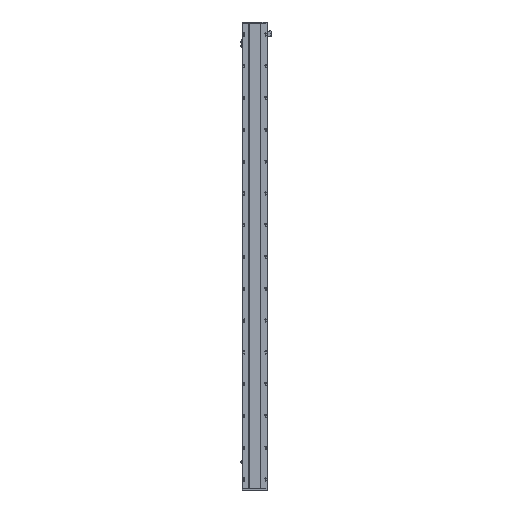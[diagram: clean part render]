
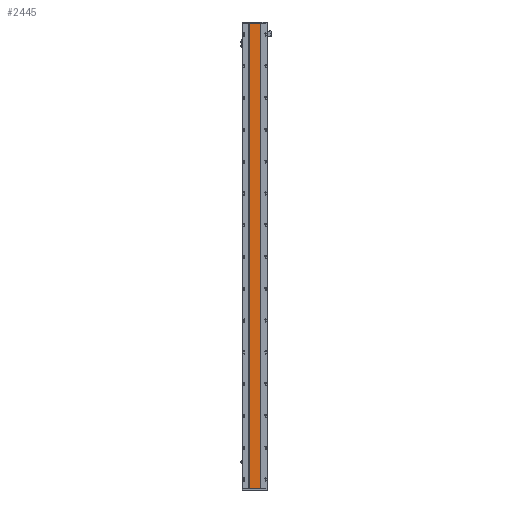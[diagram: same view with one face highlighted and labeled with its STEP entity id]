
A CAD part, front view. The second image highlights one B-rep face of the part: STEP entity #2445.
In plain terms, the highlighted planar face has unit normal (0, -1, 0).
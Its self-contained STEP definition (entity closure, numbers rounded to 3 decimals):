
#1170 = DIRECTION ( 'NONE',  ( 1., 0., 0. ) ) ;
#2145 = CARTESIAN_POINT ( 'NONE',  ( 205.288, 16.9, 3160. ) ) ;
#2445 = ADVANCED_FACE ( 'NONE', ( #19490 ), #22636, .F. ) ;
#5152 = ORIENTED_EDGE ( 'NONE', *, *, #48533, .T. ) ;
#7791 = DIRECTION ( 'NONE',  ( -1., 0., 0. ) ) ;
#9166 = EDGE_CURVE ( 'NONE', #13198, #13718, #16292, .T. ) ;
#10443 = DIRECTION ( 'NONE',  ( 1., 0., 0. ) ) ;
#11130 = VECTOR ( 'NONE', #1170, 1000. ) ;
#11560 = EDGE_LOOP ( 'NONE', ( #27683, #23406, #16881, #5152 ) ) ;
#13198 = VERTEX_POINT ( 'NONE', #24640 ) ;
#13718 = VERTEX_POINT ( 'NONE', #39405 ) ;
#14284 = LINE ( 'NONE', #36702, #23152 ) ;
#16292 = LINE ( 'NONE', #18029, #16845 ) ;
#16845 = VECTOR ( 'NONE', #10443, 1000. ) ;
#16881 = ORIENTED_EDGE ( 'NONE', *, *, #31277, .F. ) ;
#18029 = CARTESIAN_POINT ( 'NONE',  ( 205.288, 16.9, 0. ) ) ;
#19490 = FACE_OUTER_BOUND ( 'NONE', #11560, .T. ) ;
#22221 = CARTESIAN_POINT ( 'NONE',  ( 129.288, 16.9, 3160. ) ) ;
#22636 = PLANE ( 'NONE',  #46236 ) ;
#22801 = DIRECTION ( 'NONE',  ( 0., 1., 0. ) ) ;
#22958 = CARTESIAN_POINT ( 'NONE',  ( 205.288, 16.9, 3160. ) ) ;
#23152 = VECTOR ( 'NONE', #25470, 1000. ) ;
#23406 = ORIENTED_EDGE ( 'NONE', *, *, #34969, .F. ) ;
#24640 = CARTESIAN_POINT ( 'NONE',  ( 129.288, 16.9, 0. ) ) ;
#25470 = DIRECTION ( 'NONE',  ( 0., 0., -1. ) ) ;
#26112 = VERTEX_POINT ( 'NONE', #22221 ) ;
#27683 = ORIENTED_EDGE ( 'NONE', *, *, #9166, .T. ) ;
#27872 = CARTESIAN_POINT ( 'NONE',  ( 129.288, 16.9, 3160. ) ) ;
#31277 = EDGE_CURVE ( 'NONE', #26112, #43455, #33654, .T. ) ;
#33654 = LINE ( 'NONE', #27872, #11130 ) ;
#34969 = EDGE_CURVE ( 'NONE', #43455, #13718, #14284, .T. ) ;
#36702 = CARTESIAN_POINT ( 'NONE',  ( 205.288, 16.9, 3160. ) ) ;
#38426 = LINE ( 'NONE', #43447, #48469 ) ;
#39405 = CARTESIAN_POINT ( 'NONE',  ( 205.288, 16.9, 0. ) ) ;
#43280 = DIRECTION ( 'NONE',  ( 0., 0., -1. ) ) ;
#43447 = CARTESIAN_POINT ( 'NONE',  ( 129.288, 16.9, 3160. ) ) ;
#43455 = VERTEX_POINT ( 'NONE', #2145 ) ;
#46236 = AXIS2_PLACEMENT_3D ( 'NONE', #22958, #22801, #7791 ) ;
#48469 = VECTOR ( 'NONE', #43280, 1000. ) ;
#48533 = EDGE_CURVE ( 'NONE', #26112, #13198, #38426, .T. ) ;
